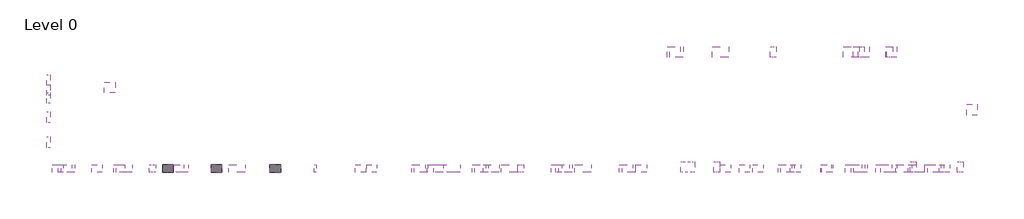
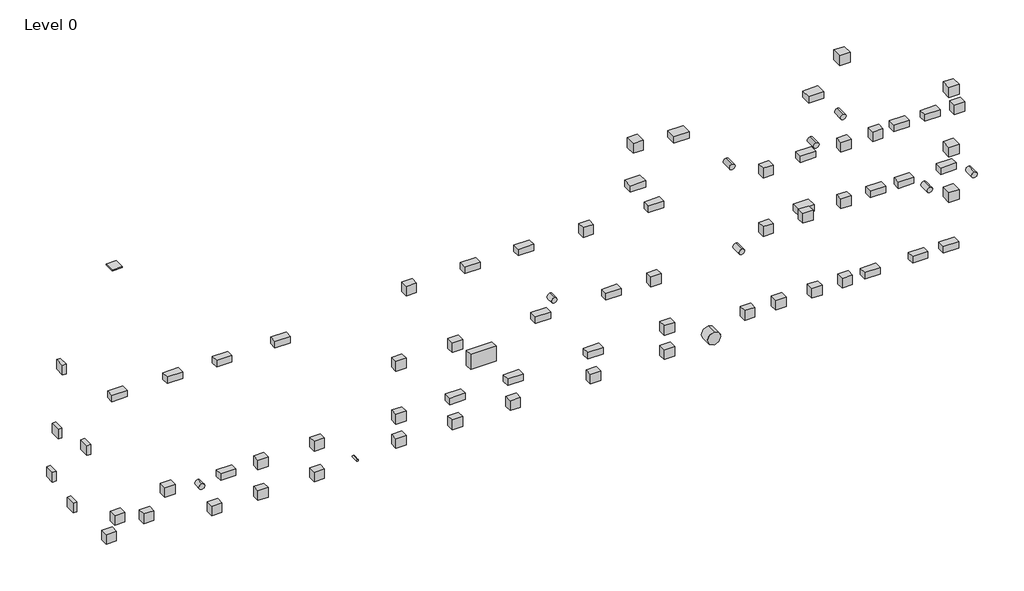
# One storey: 80 proxies.
"""IFC4 building model written with IfcOpenShell, lengths in millimetres."""

from ifc_helpers import new_model, si_unit, origin, place, context, project, spatial, transform, mapped, element, save
from components import generic_models_4d27aede, generic_models_9cc2939c, generic_models_6c32a19f, generic_models_7ba1ead4, generic_models_067c08be, generic_models_9a4e261b, generic_models_ac97eb3e, generic_models_9b6c9029, generic_models_13c7f0e2, generic_models_eefd1a19, generic_models_59290440

model = new_model("IFC4")

# Units and contexts
model_context = context("Model", 3, world=origin())
ifc_project = project(units=[si_unit("LENGTHUNIT", "METRE", prefix="MILLI")], contexts=[model_context])

# Site, building, storey
site = spatial("IfcSite", under=ifc_project)
building = spatial("IfcBuilding", under=site)
storey = spatial("IfcBuildingStorey", under=building, Name="Level 0", Elevation=0.0)

# Proxies
placement = place(None, origin())
generic_models_shape = generic_models_4d27aede(model_context)
element("IfcBuildingElementProxy", 1, Name="DMS-BWIC Family : BWIC_Circle", ObjectType="DMS-BWIC Family : BWIC_Circle", at=placement, inside=storey, context=model_context, shape_type="MappedRepresentation", body=[
    mapped(generic_models_shape, transform((33612.1173076, -787.7844268, 6475.0), x_axis=(1.0, 0.0, 0.0), y_axis=(0.0, 0.0, 1.0), z_axis=(0.0, -1.0, 0.0))),
])
element("IfcBuildingElementProxy", 2, Name="DMS-BWIC Family : BWIC_Circle", ObjectType="DMS-BWIC Family : BWIC_Circle", at=placement, inside=storey, context=model_context, shape_type="MappedRepresentation", body=[
    mapped(generic_models_shape, transform((44603.4524703, -787.7844268, 6475.0), x_axis=(1.0, 0.0, 0.0), y_axis=(0.0, 0.0, 1.0), z_axis=(0.0, -1.0, 0.0))),
])
element("IfcBuildingElementProxy", 3, Name="DMS-BWIC Family : BWIC_Circle", ObjectType="DMS-BWIC Family : BWIC_Circle", at=placement, inside=storey, context=model_context, shape_type="MappedRepresentation", body=[
    mapped(generic_models_shape, transform((47226.3263345, -787.7844268, 6475.0), x_axis=(1.0, 0.0, 0.0), y_axis=(0.0, 0.0, 1.0), z_axis=(0.0, -1.0, 0.0))),
])
element("IfcBuildingElementProxy", 4, Name="DMS-BWIC Family : BWIC_Circle", ObjectType="DMS-BWIC Family : BWIC_Circle", at=placement, inside=storey, context=model_context, shape_type="MappedRepresentation", body=[
    mapped(generic_models_shape, transform((43272.6809756, 6252.2155732, 7552.0632195), x_axis=(-1.0, 0.0, 0.0), y_axis=(0.0, 0.0, 1.0), z_axis=(0.0, 1.0, 0.0))),
])
element("IfcBuildingElementProxy", 5, Name="DMS-BWIC Family : BWIC_Circle", ObjectType="DMS-BWIC Family : BWIC_Circle", at=placement, inside=storey, context=model_context, shape_type="MappedRepresentation", body=[
    mapped(generic_models_shape, transform((41689.021488, 6252.2155732, 6345.0737317), x_axis=(-1.0, 0.0, 0.0), y_axis=(0.0, 0.0, 1.0), z_axis=(0.0, 1.0, 0.0))),
])
element("IfcBuildingElementProxy", 6, Name="DMS-BWIC Family : BWIC_Circle", ObjectType="DMS-BWIC Family : BWIC_Circle", at=placement, inside=storey, context=model_context, shape_type="MappedRepresentation", body=[
    mapped(generic_models_shape, transform((36768.0718739, 6252.2155732, 6739.1754522), x_axis=(-1.0, 0.0, 0.0), y_axis=(0.0, 0.0, 1.0), z_axis=(0.0, 1.0, 0.0))),
])
generic_models_2_shape = generic_models_9cc2939c(model_context)
element("IfcBuildingElementProxy", 7, Name="DMS-BWIC Family : BWIC_Square", ObjectType="DMS-BWIC Family : BWIC_Square", at=placement, inside=storey, context=model_context, shape_type="MappedRepresentation", body=[
    mapped(generic_models_2_shape, transform((31272.7322267, 6252.2155732, 9900.0), x_axis=(-1.0, 0.0, 0.0), y_axis=(0.0, 0.0, 1.0), z_axis=(0.0, 1.0, 0.0))),
])
element("IfcBuildingElementProxy", 8, Name="DMS-BWIC Family : BWIC_Square", ObjectType="DMS-BWIC Family : BWIC_Square", at=placement, inside=storey, context=model_context, shape_type="MappedRepresentation", body=[
    mapped(generic_models_2_shape, transform((43368.7636275, 6252.2155732, 11100.0), x_axis=(-1.0, 0.0, 0.0), y_axis=(0.0, 0.0, 1.0), z_axis=(0.0, 1.0, 0.0))),
])
element("IfcBuildingElementProxy", 9, Name="DMS-BWIC Family : BWIC_Square", ObjectType="DMS-BWIC Family : BWIC_Square", at=placement, inside=storey, context=model_context, shape_type="MappedRepresentation", body=[
    mapped(generic_models_2_shape, transform((48187.862776, 2720.2665301, 9500.0), x_axis=(0.0, 1.0, 0.0), y_axis=(0.0, 0.0, 1.0), z_axis=(1.0, 0.0, 0.0))),
])
element("IfcBuildingElementProxy", 10, Name="DMS-BWIC Family : BWIC_Square", ObjectType="DMS-BWIC Family : BWIC_Square", at=placement, inside=storey, context=model_context, shape_type="MappedRepresentation", body=[
    mapped(generic_models_2_shape, transform((48187.862776, 2720.2665301, 5800.0), x_axis=(0.0, 1.0, 0.0), y_axis=(0.0, 0.0, 1.0), z_axis=(1.0, 0.0, 0.0))),
])
element("IfcBuildingElementProxy", 11, Name="DMS-BWIC Family : BWIC_Square", ObjectType="DMS-BWIC Family : BWIC_Square", at=placement, inside=storey, context=model_context, shape_type="MappedRepresentation", body=[
    mapped(generic_models_2_shape, transform((48187.862776, 2720.2665301, 3000.0), x_axis=(0.0, 1.0, 0.0), y_axis=(0.0, 0.0, 1.0), z_axis=(1.0, 0.0, 0.0))),
])
generic_models_3_shape = generic_models_6c32a19f(model_context)
element("IfcBuildingElementProxy", 12, Name="DMS-BWIC Family : BWIC_Square", ObjectType="DMS-BWIC Family : BWIC_Square", at=placement, inside=storey, context=model_context, shape_type="MappedRepresentation", body=[
    mapped(generic_models_3_shape, transform((-3888.387224, 4382.2155732, 2700.0), x_axis=(0.0, -1.0, 0.0), y_axis=(0.0, 0.0, 1.0), z_axis=(-1.0, 0.0, 0.0))),
])
element("IfcBuildingElementProxy", 13, Name="DMS-BWIC Family : BWIC_Square", ObjectType="DMS-BWIC Family : BWIC_Square", at=placement, inside=storey, context=model_context, shape_type="MappedRepresentation", body=[
    mapped(generic_models_3_shape, transform((-3888.387224, 3819.7155732, 5725.0), x_axis=(0.0, -1.0, 0.0), y_axis=(0.0, 0.0, 1.0), z_axis=(-1.0, 0.0, 0.0))),
])
element("IfcBuildingElementProxy", 14, Name="DMS-BWIC Family : BWIC_Square", ObjectType="DMS-BWIC Family : BWIC_Square", at=placement, inside=storey, context=model_context, shape_type="MappedRepresentation", body=[
    mapped(generic_models_3_shape, transform((-3888.387224, 894.7155732, 6475.0), x_axis=(0.0, -1.0, 0.0), y_axis=(0.0, 0.0, 1.0), z_axis=(-1.0, 0.0, 0.0))),
])
element("IfcBuildingElementProxy", 15, Name="DMS-BWIC Family : BWIC_Square", ObjectType="DMS-BWIC Family : BWIC_Square", at=placement, inside=storey, context=model_context, shape_type="MappedRepresentation", body=[
    mapped(generic_models_3_shape, transform((-3888.387224, 3369.7155732, 9950.0), x_axis=(0.0, -1.0, 0.0), y_axis=(0.0, 0.0, 1.0), z_axis=(-1.0, 0.0, 0.0))),
])
element("IfcBuildingElementProxy", 16, Name="DMS-BWIC Family : BWIC_Square", ObjectType="DMS-BWIC Family : BWIC_Square", at=placement, inside=storey, context=model_context, shape_type="MappedRepresentation", body=[
    mapped(generic_models_3_shape, transform((-3888.387224, 2294.3379002, 2070.0), x_axis=(0.0, -1.0, 0.0), y_axis=(0.0, 0.0, 1.0), z_axis=(-1.0, 0.0, 0.0))),
])
generic_models_4_shape = generic_models_7ba1ead4(model_context)
element("IfcBuildingElementProxy", 17, Name="DMS-BWIC Family : BWIC_Square", ObjectType="DMS-BWIC Family : BWIC_Square", at=placement, inside=storey, context=model_context, shape_type="MappedRepresentation", body=[
    mapped(generic_models_4_shape, transform((-2771.5182183, -787.7844268, 2700.0), x_axis=(1.0, 0.0, 0.0), y_axis=(0.0, 0.0, 1.0), z_axis=(0.0, -1.0, 0.0))),
])
element("IfcBuildingElementProxy", 18, Name="DMS-BWIC Family : BWIC_Square", ObjectType="DMS-BWIC Family : BWIC_Square", at=placement, inside=storey, context=model_context, shape_type="MappedRepresentation", body=[
    mapped(generic_models_4_shape, transform((-3263.5995714, -787.7844268, 1700.0), x_axis=(1.0, 0.0, 0.0), y_axis=(0.0, 0.0, 1.0), z_axis=(0.0, -1.0, 0.0))),
])
element("IfcBuildingElementProxy", 19, Name="DMS-BWIC Family : BWIC_Square", ObjectType="DMS-BWIC Family : BWIC_Square", at=placement, inside=storey, context=model_context, shape_type="MappedRepresentation", body=[
    mapped(generic_models_4_shape, transform((5612.0900193, -787.7844268, 3200.0), x_axis=(1.0, 0.0, 0.0), y_axis=(0.0, 0.0, 1.0), z_axis=(0.0, -1.0, 0.0))),
])
element("IfcBuildingElementProxy", 20, Name="DMS-BWIC Family : BWIC_Square", ObjectType="DMS-BWIC Family : BWIC_Square", at=placement, inside=storey, context=model_context, shape_type="MappedRepresentation", body=[
    mapped(generic_models_4_shape, transform((5612.0900193, -787.7844268, 1300.0), x_axis=(1.0, 0.0, 0.0), y_axis=(0.0, 0.0, 1.0), z_axis=(0.0, -1.0, 0.0))),
])
element("IfcBuildingElementProxy", 21, Name="DMS-BWIC Family : BWIC_Square", ObjectType="DMS-BWIC Family : BWIC_Square", at=placement, inside=storey, context=model_context, shape_type="MappedRepresentation", body=[
    mapped(generic_models_4_shape, transform((-1062.2645218, -787.7844268, 2200.0), x_axis=(1.0, 0.0, 0.0), y_axis=(0.0, 0.0, 1.0), z_axis=(0.0, -1.0, 0.0))),
])
element("IfcBuildingElementProxy", 22, Name="DMS-BWIC Family : BWIC_Square", ObjectType="DMS-BWIC Family : BWIC_Square", at=placement, inside=storey, context=model_context, shape_type="MappedRepresentation", body=[
    mapped(generic_models_4_shape, transform((172.5454641, -787.7844268, 3400.0), x_axis=(1.0, 0.0, 0.0), y_axis=(0.0, 0.0, 1.0), z_axis=(0.0, -1.0, 0.0))),
])
element("IfcBuildingElementProxy", 23, Name="DMS-BWIC Family : BWIC_Square", ObjectType="DMS-BWIC Family : BWIC_Square", at=placement, inside=storey, context=model_context, shape_type="MappedRepresentation", body=[
    mapped(generic_models_4_shape, transform((2907.7728473, -787.7844268, 1300.0), x_axis=(1.0, 0.0, 0.0), y_axis=(0.0, 0.0, 1.0), z_axis=(0.0, -1.0, 0.0))),
])
element("IfcBuildingElementProxy", 24, Name="DMS-BWIC Family : BWIC_Square", ObjectType="DMS-BWIC Family : BWIC_Square", at=placement, inside=storey, context=model_context, shape_type="MappedRepresentation", body=[
    mapped(generic_models_4_shape, transform((8903.7682012, -787.7844268, 1300.0), x_axis=(1.0, 0.0, 0.0), y_axis=(0.0, 0.0, 1.0), z_axis=(0.0, -1.0, 0.0))),
])
element("IfcBuildingElementProxy", 25, Name="DMS-BWIC Family : BWIC_Square", ObjectType="DMS-BWIC Family : BWIC_Square", at=placement, inside=storey, context=model_context, shape_type="MappedRepresentation", body=[
    mapped(generic_models_4_shape, transform((8903.7682012, -787.7844268, 3200.0), x_axis=(1.0, 0.0, 0.0), y_axis=(0.0, 0.0, 1.0), z_axis=(0.0, -1.0, 0.0))),
])
element("IfcBuildingElementProxy", 26, Name="DMS-BWIC Family : BWIC_Square", ObjectType="DMS-BWIC Family : BWIC_Square", at=placement, inside=storey, context=model_context, shape_type="MappedRepresentation", body=[
    mapped(generic_models_4_shape, transform((13686.1057862, -787.7844268, 3200.0), x_axis=(1.0, 0.0, 0.0), y_axis=(0.0, 0.0, 1.0), z_axis=(0.0, -1.0, 0.0))),
])
element("IfcBuildingElementProxy", 27, Name="DMS-BWIC Family : BWIC_Square", ObjectType="DMS-BWIC Family : BWIC_Square", at=placement, inside=storey, context=model_context, shape_type="MappedRepresentation", body=[
    mapped(generic_models_4_shape, transform((29385.8143801, -787.7844268, 3200.0), x_axis=(1.0, 0.0, 0.0), y_axis=(0.0, 0.0, 1.0), z_axis=(0.0, -1.0, 0.0))),
])
element("IfcBuildingElementProxy", 28, Name="DMS-BWIC Family : BWIC_Square", ObjectType="DMS-BWIC Family : BWIC_Square", at=placement, inside=storey, context=model_context, shape_type="MappedRepresentation", body=[
    mapped(generic_models_4_shape, transform((29385.8143801, -787.7844268, 1700.0), x_axis=(1.0, 0.0, 0.0), y_axis=(0.0, 0.0, 1.0), z_axis=(0.0, -1.0, 0.0))),
])
element("IfcBuildingElementProxy", 29, Name="DMS-BWIC Family : BWIC_Square", ObjectType="DMS-BWIC Family : BWIC_Square", at=placement, inside=storey, context=model_context, shape_type="MappedRepresentation", body=[
    mapped(generic_models_4_shape, transform((25060.8642006, -787.7844268, 1700.0), x_axis=(1.0, 0.0, 0.0), y_axis=(0.0, 0.0, 1.0), z_axis=(0.0, -1.0, 0.0))),
])
element("IfcBuildingElementProxy", 30, Name="DMS-BWIC Family : BWIC_Square", ObjectType="DMS-BWIC Family : BWIC_Square", at=placement, inside=storey, context=model_context, shape_type="MappedRepresentation", body=[
    mapped(generic_models_4_shape, transform((20372.7350913, -787.7844268, 1700.0), x_axis=(1.0, 0.0, 0.0), y_axis=(0.0, 0.0, 1.0), z_axis=(0.0, -1.0, 0.0))),
])
element("IfcBuildingElementProxy", 31, Name="DMS-BWIC Family : BWIC_Square", ObjectType="DMS-BWIC Family : BWIC_Square", at=placement, inside=storey, context=model_context, shape_type="MappedRepresentation", body=[
    mapped(generic_models_4_shape, transform((16987.802414, -787.7844268, 1700.0), x_axis=(1.0, 0.0, 0.0), y_axis=(0.0, 0.0, 1.0), z_axis=(0.0, -1.0, 0.0))),
])
element("IfcBuildingElementProxy", 32, Name="DMS-BWIC Family : BWIC_Square", ObjectType="DMS-BWIC Family : BWIC_Square", at=placement, inside=storey, context=model_context, shape_type="MappedRepresentation", body=[
    mapped(generic_models_4_shape, transform((13686.1057862, -787.7844268, 1700.0), x_axis=(1.0, 0.0, 0.0), y_axis=(0.0, 0.0, 1.0), z_axis=(0.0, -1.0, 0.0))),
])
element("IfcBuildingElementProxy", 33, Name="DMS-BWIC Family : BWIC_Square", ObjectType="DMS-BWIC Family : BWIC_Square", at=placement, inside=storey, context=model_context, shape_type="MappedRepresentation", body=[
    mapped(generic_models_4_shape, transform((13686.1057862, -787.7844268, 6475.0), x_axis=(1.0, 0.0, 0.0), y_axis=(0.0, 0.0, 1.0), z_axis=(0.0, -1.0, 0.0))),
])
element("IfcBuildingElementProxy", 34, Name="DMS-BWIC Family : BWIC_Square", ObjectType="DMS-BWIC Family : BWIC_Square", at=placement, inside=storey, context=model_context, shape_type="MappedRepresentation", body=[
    mapped(generic_models_4_shape, transform((16987.802414, -787.7844268, 6475.0), x_axis=(1.0, 0.0, 0.0), y_axis=(0.0, 0.0, 1.0), z_axis=(0.0, -1.0, 0.0))),
])
element("IfcBuildingElementProxy", 35, Name="DMS-BWIC Family : BWIC_Square", ObjectType="DMS-BWIC Family : BWIC_Square", at=placement, inside=storey, context=model_context, shape_type="MappedRepresentation", body=[
    mapped(generic_models_4_shape, transform((28604.5330574, -787.7844268, 6475.0), x_axis=(1.0, 0.0, 0.0), y_axis=(0.0, 0.0, 1.0), z_axis=(0.0, -1.0, 0.0))),
])
element("IfcBuildingElementProxy", 36, Name="DMS-BWIC Family : BWIC_Square", ObjectType="DMS-BWIC Family : BWIC_Square", at=placement, inside=storey, context=model_context, shape_type="MappedRepresentation", body=[
    mapped(generic_models_4_shape, transform((24642.3206348, -787.7844268, 10916.7174237), x_axis=(1.0, 0.0, 0.0), y_axis=(0.0, 0.0, 1.0), z_axis=(0.0, -1.0, 0.0))),
])
element("IfcBuildingElementProxy", 37, Name="DMS-BWIC Family : BWIC_Square", ObjectType="DMS-BWIC Family : BWIC_Square", at=placement, inside=storey, context=model_context, shape_type="MappedRepresentation", body=[
    mapped(generic_models_4_shape, transform((14290.3431083, -787.7844268, 10916.7174237), x_axis=(1.0, 0.0, 0.0), y_axis=(0.0, 0.0, 1.0), z_axis=(0.0, -1.0, 0.0))),
])
element("IfcBuildingElementProxy", 38, Name="DMS-BWIC Family : BWIC_Square", ObjectType="DMS-BWIC Family : BWIC_Square", at=placement, inside=storey, context=model_context, shape_type="MappedRepresentation", body=[
    mapped(generic_models_4_shape, transform((35158.1683598, -787.7844268, 7300.0), x_axis=(1.0, 0.0, 0.0), y_axis=(0.0, 0.0, 1.0), z_axis=(0.0, -1.0, 0.0))),
])
element("IfcBuildingElementProxy", 39, Name="DMS-BWIC Family : BWIC_Square", ObjectType="DMS-BWIC Family : BWIC_Square", at=placement, inside=storey, context=model_context, shape_type="MappedRepresentation", body=[
    mapped(generic_models_4_shape, transform((37486.8895919, -787.7844268, 7300.0), x_axis=(1.0, 0.0, 0.0), y_axis=(0.0, 0.0, 1.0), z_axis=(0.0, -1.0, 0.0))),
])
element("IfcBuildingElementProxy", 40, Name="DMS-BWIC Family : BWIC_Square", ObjectType="DMS-BWIC Family : BWIC_Square", at=placement, inside=storey, context=model_context, shape_type="MappedRepresentation", body=[
    mapped(generic_models_4_shape, transform((39719.7217015, -787.7844268, 7413.5459551), x_axis=(1.0, 0.0, 0.0), y_axis=(0.0, 0.0, 1.0), z_axis=(0.0, -1.0, 0.0))),
])
element("IfcBuildingElementProxy", 41, Name="DMS-BWIC Family : BWIC_Square", ObjectType="DMS-BWIC Family : BWIC_Square", at=placement, inside=storey, context=model_context, shape_type="MappedRepresentation", body=[
    mapped(generic_models_4_shape, transform((35158.1683598, -787.7844268, 10916.7174237), x_axis=(1.0, 0.0, 0.0), y_axis=(0.0, 0.0, 1.0), z_axis=(0.0, -1.0, 0.0))),
])
element("IfcBuildingElementProxy", 42, Name="DMS-BWIC Family : BWIC_Square", ObjectType="DMS-BWIC Family : BWIC_Square", at=placement, inside=storey, context=model_context, shape_type="MappedRepresentation", body=[
    mapped(generic_models_4_shape, transform((39719.7217015, -787.7844268, 10916.7174237), x_axis=(1.0, 0.0, 0.0), y_axis=(0.0, 0.0, 1.0), z_axis=(0.0, -1.0, 0.0))),
])
element("IfcBuildingElementProxy", 43, Name="DMS-BWIC Family : BWIC_Square", ObjectType="DMS-BWIC Family : BWIC_Square", at=placement, inside=storey, context=model_context, shape_type="MappedRepresentation", body=[
    mapped(generic_models_4_shape, transform((41574.0589212, -787.7844268, 10916.7174237), x_axis=(1.0, 0.0, 0.0), y_axis=(0.0, 0.0, 1.0), z_axis=(0.0, -1.0, 0.0))),
])
element("IfcBuildingElementProxy", 44, Name="DMS-BWIC Family : BWIC_Square", ObjectType="DMS-BWIC Family : BWIC_Square", at=placement, inside=storey, context=model_context, shape_type="MappedRepresentation", body=[
    mapped(generic_models_4_shape, transform((46347.5422271, -787.7844268, 10916.7174237), x_axis=(1.0, 0.0, 0.0), y_axis=(0.0, 0.0, 1.0), z_axis=(0.0, -1.0, 0.0))),
])
element("IfcBuildingElementProxy", 45, Name="DMS-BWIC Family : BWIC_Square", ObjectType="DMS-BWIC Family : BWIC_Square", at=placement, inside=storey, context=model_context, shape_type="MappedRepresentation", body=[
    mapped(generic_models_4_shape, transform((38009.693597, -787.7844268, 2480.1511202), x_axis=(1.0, 0.0, 0.0), y_axis=(0.0, 0.0, 1.0), z_axis=(0.0, -1.0, 0.0))),
])
element("IfcBuildingElementProxy", 46, Name="DMS-BWIC Family : BWIC_Square", ObjectType="DMS-BWIC Family : BWIC_Square", at=placement, inside=storey, context=model_context, shape_type="MappedRepresentation", body=[
    mapped(generic_models_4_shape, transform((39784.9654937, -787.7844268, 2480.1511202), x_axis=(1.0, 0.0, 0.0), y_axis=(0.0, 0.0, 1.0), z_axis=(0.0, -1.0, 0.0))),
])
element("IfcBuildingElementProxy", 47, Name="DMS-BWIC Family : BWIC_Square", ObjectType="DMS-BWIC Family : BWIC_Square", at=placement, inside=storey, context=model_context, shape_type="MappedRepresentation", body=[
    mapped(generic_models_4_shape, transform((35904.5569898, -787.7844268, 2480.1511202), x_axis=(1.0, 0.0, 0.0), y_axis=(0.0, 0.0, 1.0), z_axis=(0.0, -1.0, 0.0))),
])
element("IfcBuildingElementProxy", 48, Name="DMS-BWIC Family : BWIC_Square", ObjectType="DMS-BWIC Family : BWIC_Square", at=placement, inside=storey, context=model_context, shape_type="MappedRepresentation", body=[
    mapped(generic_models_4_shape, transform((34087.3023119, -787.7844268, 2480.1511202), x_axis=(1.0, 0.0, 0.0), y_axis=(0.0, 0.0, 1.0), z_axis=(0.0, -1.0, 0.0))),
])
generic_models_5_shape = generic_models_067c08be(model_context)
element("IfcBuildingElementProxy", 49, Name="DMS-BWIC Family : BWIC_Square", ObjectType="DMS-BWIC Family : BWIC_Square", at=placement, inside=storey, context=model_context, shape_type="MappedRepresentation", body=[
    mapped(generic_models_5_shape, transform((3579.9762835, -787.7844268, 3200.0), x_axis=(1.0, 0.0, 0.0), y_axis=(0.0, 0.0, 1.0), z_axis=(0.0, -1.0, 0.0))),
])
element("IfcBuildingElementProxy", 50, Name="DMS-BWIC Family : BWIC_Square", ObjectType="DMS-BWIC Family : BWIC_Square", at=placement, inside=storey, context=model_context, shape_type="MappedRepresentation", body=[
    mapped(generic_models_5_shape, transform((456.6070489, -787.7844268, 10300.0), x_axis=(1.0, 0.0, 0.0), y_axis=(0.0, 0.0, 1.0), z_axis=(0.0, -1.0, 0.0))),
])
element("IfcBuildingElementProxy", 51, Name="DMS-BWIC Family : BWIC_Square", ObjectType="DMS-BWIC Family : BWIC_Square", at=placement, inside=storey, context=model_context, shape_type="MappedRepresentation", body=[
    mapped(generic_models_5_shape, transform((3348.9518909, -787.7844268, 10300.0), x_axis=(1.0, 0.0, 0.0), y_axis=(0.0, 0.0, 1.0), z_axis=(0.0, -1.0, 0.0))),
])
element("IfcBuildingElementProxy", 52, Name="DMS-BWIC Family : BWIC_Square", ObjectType="DMS-BWIC Family : BWIC_Square", at=placement, inside=storey, context=model_context, shape_type="MappedRepresentation", body=[
    mapped(generic_models_5_shape, transform((6765.2722477, -787.7844268, 10300.0), x_axis=(1.0, 0.0, 0.0), y_axis=(0.0, 0.0, 1.0), z_axis=(0.0, -1.0, 0.0))),
])
element("IfcBuildingElementProxy", 53, Name="DMS-BWIC Family : BWIC_Square", ObjectType="DMS-BWIC Family : BWIC_Square", at=placement, inside=storey, context=model_context, shape_type="MappedRepresentation", body=[
    mapped(generic_models_5_shape, transform((-2771.5182183, -787.7844268, 10300.0), x_axis=(1.0, 0.0, 0.0), y_axis=(0.0, 0.0, 1.0), z_axis=(0.0, -1.0, 0.0))),
])
element("IfcBuildingElementProxy", 54, Name="DMS-BWIC Family : BWIC_Square", ObjectType="DMS-BWIC Family : BWIC_Square", at=placement, inside=storey, context=model_context, shape_type="MappedRepresentation", body=[
    mapped(generic_models_5_shape, transform((16987.802414, -787.7844268, 3200.0), x_axis=(1.0, 0.0, 0.0), y_axis=(0.0, 0.0, 1.0), z_axis=(0.0, -1.0, 0.0))),
])
element("IfcBuildingElementProxy", 55, Name="DMS-BWIC Family : BWIC_Square", ObjectType="DMS-BWIC Family : BWIC_Square", at=placement, inside=storey, context=model_context, shape_type="MappedRepresentation", body=[
    mapped(generic_models_5_shape, transform((20372.7350913, -787.7844268, 3200.0), x_axis=(1.0, 0.0, 0.0), y_axis=(0.0, 0.0, 1.0), z_axis=(0.0, -1.0, 0.0))),
])
element("IfcBuildingElementProxy", 56, Name="DMS-BWIC Family : BWIC_Square", ObjectType="DMS-BWIC Family : BWIC_Square", at=placement, inside=storey, context=model_context, shape_type="MappedRepresentation", body=[
    mapped(generic_models_5_shape, transform((25060.8642006, -787.7844268, 3200.0), x_axis=(1.0, 0.0, 0.0), y_axis=(0.0, 0.0, 1.0), z_axis=(0.0, -1.0, 0.0))),
])
element("IfcBuildingElementProxy", 57, Name="DMS-BWIC Family : BWIC_Square", ObjectType="DMS-BWIC Family : BWIC_Square", at=placement, inside=storey, context=model_context, shape_type="MappedRepresentation", body=[
    mapped(generic_models_5_shape, transform((21991.5447183, -787.7844268, 6475.0), x_axis=(1.0, 0.0, 0.0), y_axis=(0.0, 0.0, 1.0), z_axis=(0.0, -1.0, 0.0))),
])
element("IfcBuildingElementProxy", 58, Name="DMS-BWIC Family : BWIC_Square", ObjectType="DMS-BWIC Family : BWIC_Square", at=placement, inside=storey, context=model_context, shape_type="MappedRepresentation", body=[
    mapped(generic_models_5_shape, transform((26121.1745672, -787.7844268, 6475.0), x_axis=(1.0, 0.0, 0.0), y_axis=(0.0, 0.0, 1.0), z_axis=(0.0, -1.0, 0.0))),
])
element("IfcBuildingElementProxy", 59, Name="DMS-BWIC Family : BWIC_Square", ObjectType="DMS-BWIC Family : BWIC_Square", at=placement, inside=storey, context=model_context, shape_type="MappedRepresentation", body=[
    mapped(generic_models_5_shape, transform((28604.5330574, -787.7844268, 11016.7174237), x_axis=(1.0, 0.0, 0.0), y_axis=(0.0, 0.0, 1.0), z_axis=(0.0, -1.0, 0.0))),
])
element("IfcBuildingElementProxy", 60, Name="DMS-BWIC Family : BWIC_Square", ObjectType="DMS-BWIC Family : BWIC_Square", at=placement, inside=storey, context=model_context, shape_type="MappedRepresentation", body=[
    mapped(generic_models_5_shape, transform((20987.0401605, -787.7844268, 11016.7174237), x_axis=(1.0, 0.0, 0.0), y_axis=(0.0, 0.0, 1.0), z_axis=(0.0, -1.0, 0.0))),
])
element("IfcBuildingElementProxy", 61, Name="DMS-BWIC Family : BWIC_Square", ObjectType="DMS-BWIC Family : BWIC_Square", at=placement, inside=storey, context=model_context, shape_type="MappedRepresentation", body=[
    mapped(generic_models_5_shape, transform((17861.9148695, -787.7844268, 11016.7174237), x_axis=(1.0, 0.0, 0.0), y_axis=(0.0, 0.0, 1.0), z_axis=(0.0, -1.0, 0.0))),
])
element("IfcBuildingElementProxy", 62, Name="DMS-BWIC Family : BWIC_Square", ObjectType="DMS-BWIC Family : BWIC_Square", at=placement, inside=storey, context=model_context, shape_type="MappedRepresentation", body=[
    mapped(generic_models_5_shape, transform((41574.0589212, -787.7844268, 7413.5459551), x_axis=(1.0, 0.0, 0.0), y_axis=(0.0, 0.0, 1.0), z_axis=(0.0, -1.0, 0.0))),
])
element("IfcBuildingElementProxy", 63, Name="DMS-BWIC Family : BWIC_Square", ObjectType="DMS-BWIC Family : BWIC_Square", at=placement, inside=storey, context=model_context, shape_type="MappedRepresentation", body=[
    mapped(generic_models_5_shape, transform((43225.0609623, -787.7844268, 7400.0), x_axis=(1.0, 0.0, 0.0), y_axis=(0.0, 0.0, 1.0), z_axis=(0.0, -1.0, 0.0))),
])
element("IfcBuildingElementProxy", 64, Name="DMS-BWIC Family : BWIC_Square", ObjectType="DMS-BWIC Family : BWIC_Square", at=placement, inside=storey, context=model_context, shape_type="MappedRepresentation", body=[
    mapped(generic_models_5_shape, transform((45698.0160544, -787.7844268, 7400.0), x_axis=(1.0, 0.0, 0.0), y_axis=(0.0, 0.0, 1.0), z_axis=(0.0, -1.0, 0.0))),
])
element("IfcBuildingElementProxy", 65, Name="DMS-BWIC Family : BWIC_Square", ObjectType="DMS-BWIC Family : BWIC_Square", at=placement, inside=storey, context=model_context, shape_type="MappedRepresentation", body=[
    mapped(generic_models_5_shape, transform((37486.8895919, -787.7844268, 11016.7174237), x_axis=(1.0, 0.0, 0.0), y_axis=(0.0, 0.0, 1.0), z_axis=(0.0, -1.0, 0.0))),
])
element("IfcBuildingElementProxy", 66, Name="DMS-BWIC Family : BWIC_Square", ObjectType="DMS-BWIC Family : BWIC_Square", at=placement, inside=storey, context=model_context, shape_type="MappedRepresentation", body=[
    mapped(generic_models_5_shape, transform((42953.5443543, -787.7844268, 11016.7174237), x_axis=(1.0, 0.0, 0.0), y_axis=(0.0, 0.0, 1.0), z_axis=(0.0, -1.0, 0.0))),
])
element("IfcBuildingElementProxy", 67, Name="DMS-BWIC Family : BWIC_Square", ObjectType="DMS-BWIC Family : BWIC_Square", at=placement, inside=storey, context=model_context, shape_type="MappedRepresentation", body=[
    mapped(generic_models_5_shape, transform((44769.1245934, -787.7844268, 11016.7174237), x_axis=(1.0, 0.0, 0.0), y_axis=(0.0, 0.0, 1.0), z_axis=(0.0, -1.0, 0.0))),
])
element("IfcBuildingElementProxy", 68, Name="DMS-BWIC Family : BWIC_Square", ObjectType="DMS-BWIC Family : BWIC_Square", at=placement, inside=storey, context=model_context, shape_type="MappedRepresentation", body=[
    mapped(generic_models_5_shape, transform((41254.3628406, -787.7844268, 2480.1511202), x_axis=(1.0, 0.0, 0.0), y_axis=(0.0, 0.0, 1.0), z_axis=(0.0, -1.0, 0.0))),
])
element("IfcBuildingElementProxy", 69, Name="DMS-BWIC Family : BWIC_Square", ObjectType="DMS-BWIC Family : BWIC_Square", at=placement, inside=storey, context=model_context, shape_type="MappedRepresentation", body=[
    mapped(generic_models_5_shape, transform((44054.3628406, -787.7844268, 2480.1511202), x_axis=(1.0, 0.0, 0.0), y_axis=(0.0, 0.0, 1.0), z_axis=(0.0, -1.0, 0.0))),
])
element("IfcBuildingElementProxy", 70, Name="DMS-BWIC Family : BWIC_Square", ObjectType="DMS-BWIC Family : BWIC_Square", at=placement, inside=storey, context=model_context, shape_type="MappedRepresentation", body=[
    mapped(generic_models_5_shape, transform((45854.3628406, -787.7844268, 2480.1511202), x_axis=(1.0, 0.0, 0.0), y_axis=(0.0, 0.0, 1.0), z_axis=(0.0, -1.0, 0.0))),
])
generic_models_6_shape = generic_models_9a4e261b(model_context)
element("IfcBuildingElementProxy", 71, Name="DMS-BWIC Family : BWIC_Circle", ObjectType="DMS-BWIC Family : BWIC_Circle", at=placement, inside=storey, context=model_context, shape_type="MappedRepresentation", body=[
    mapped(generic_models_6_shape, transform((2043.6535179, -787.7844268, 3000.0), x_axis=(1.0, 0.0, 0.0), y_axis=(0.0, 0.0, 1.0), z_axis=(0.0, -1.0, 0.0))),
])
element("IfcBuildingElementProxy", 72, Name="DMS-BWIC Family : BWIC_Circle", ObjectType="DMS-BWIC Family : BWIC_Circle", at=placement, inside=storey, context=model_context, shape_type="MappedRepresentation", body=[
    mapped(generic_models_6_shape, transform((22640.8425387, -787.7844268, 7320.0), x_axis=(1.0, 0.0, 0.0), y_axis=(0.0, 0.0, 1.0), z_axis=(0.0, -1.0, 0.0))),
])
generic_models_7_shape = generic_models_ac97eb3e(model_context)
element("IfcBuildingElementProxy", 73, Name="DMS-BWIC Family : BWIC_Square", ObjectType="DMS-BWIC Family : BWIC_Square", at=placement, inside=storey, context=model_context, shape_type="MappedRepresentation", body=[
    mapped(generic_models_7_shape, transform((31272.7322267, 6252.2155732, 7437.7132418), x_axis=(-1.0, 0.0, 0.0), y_axis=(0.0, 0.0, 1.0), z_axis=(0.0, 1.0, 0.0))),
])
element("IfcBuildingElementProxy", 74, Name="DMS-BWIC Family : BWIC_Square", ObjectType="DMS-BWIC Family : BWIC_Square", at=placement, inside=storey, context=model_context, shape_type="MappedRepresentation", body=[
    mapped(generic_models_7_shape, transform((33812.5601165, 6252.2155732, 9600.0), x_axis=(-1.0, 0.0, 0.0), y_axis=(0.0, 0.0, 1.0), z_axis=(0.0, 1.0, 0.0))),
])
element("IfcBuildingElementProxy", 75, Name="DMS-BWIC Family : BWIC_Square", ObjectType="DMS-BWIC Family : BWIC_Square", at=placement, inside=storey, context=model_context, shape_type="MappedRepresentation", body=[
    mapped(generic_models_7_shape, transform((41689.021488, 6252.2155732, 9300.0), x_axis=(-1.0, 0.0, 0.0), y_axis=(0.0, 0.0, 1.0), z_axis=(0.0, 1.0, 0.0))),
])
element("IfcBuildingElementProxy", 76, Name="DMS-BWIC Family : BWIC_Square", ObjectType="DMS-BWIC Family : BWIC_Square", at=placement, inside=storey, context=model_context, shape_type="MappedRepresentation", body=[
    mapped(generic_models_7_shape, transform((41133.399816, 6252.2155732, 2500.0), x_axis=(-1.0, 0.0, 0.0), y_axis=(0.0, 0.0, 1.0), z_axis=(0.0, 1.0, 0.0))),
])
generic_models_8_shape = generic_models_9b6c9029(model_context)
element("IfcBuildingElementProxy", 77, Name="DMS-BWIC Family : BWIC_Square", ObjectType="DMS-BWIC Family : BWIC_Square", at=placement, inside=storey, context=model_context, shape_type="MappedRepresentation", body=[
    mapped(generic_models_8_shape, transform((-347.5416077, 3958.8472302, 14657.0), x_axis=(1.0, 0.0, 0.0), y_axis=(0.0, 1.0, 0.0), z_axis=(0.0, 0.0, 1.0))),
])
generic_models_9_shape = generic_models_13c7f0e2(model_context)
element("IfcBuildingElementProxy", 78, Name="DMS-BWIC Family : BWIC_Square", ObjectType="DMS-BWIC Family : BWIC_Square", at=placement, inside=storey, context=model_context, shape_type="MappedRepresentation", body=[
    mapped(generic_models_9_shape, transform((18503.2814621, -787.7844268, 5208.7), x_axis=(1.0, 0.0, 0.0), y_axis=(0.0, 0.0, 1.0), z_axis=(0.0, -1.0, 0.0))),
])
generic_models_10_shape = generic_models_eefd1a19(model_context)
element("IfcBuildingElementProxy", 79, Name="DMS-BWIC Family : BWIC_Circle", ObjectType="DMS-BWIC Family : BWIC_Circle", at=placement, inside=storey, context=model_context, shape_type="MappedRepresentation", body=[
    mapped(generic_models_10_shape, transform((31993.8795158, -787.7844268, 1690.5690821), x_axis=(1.0, 0.0, 0.0), y_axis=(0.0, 0.0, 1.0), z_axis=(0.0, -1.0, 0.0))),
])
generic_models_11_shape = generic_models_59290440(model_context)
element("IfcBuildingElementProxy", 80, Name="DMS-BWIC Family : BWIC_Circle", ObjectType="DMS-BWIC Family : BWIC_Circle", at=placement, inside=storey, context=model_context, shape_type="MappedRepresentation", body=[
    mapped(generic_models_11_shape, transform((11134.679461, -787.7844268, 1440.5865044), x_axis=(1.0, 0.0, 0.0), y_axis=(0.0, 0.0, 1.0), z_axis=(0.0, -1.0, 0.0))),
])

save(model, "model.ifc")
